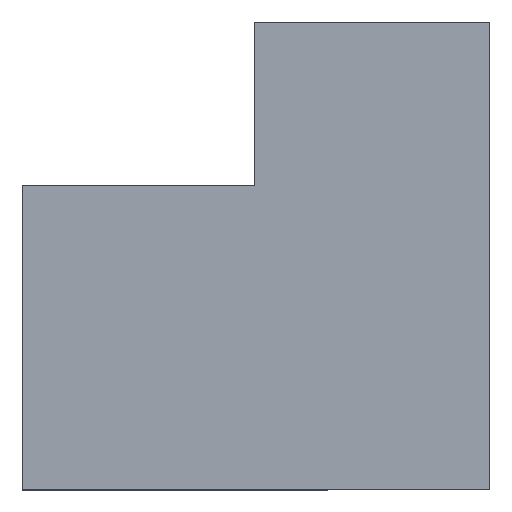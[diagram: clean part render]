
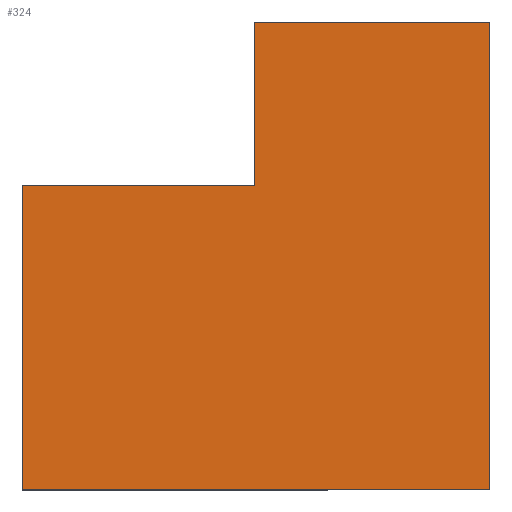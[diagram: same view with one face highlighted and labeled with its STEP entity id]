
A CAD part, top view. The second image highlights one B-rep face of the part: STEP entity #324.
In plain terms, the highlighted planar face has unit normal (0, 0, 1).
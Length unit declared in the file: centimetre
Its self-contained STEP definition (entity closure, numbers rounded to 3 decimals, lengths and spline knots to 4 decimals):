
#28 = VECTOR ( 'NONE', #426, 100. ) ;
#36 = VECTOR ( 'NONE', #319, 100. ) ;
#37 = DIRECTION ( 'NONE',  ( 0., 0., 1. ) ) ;
#44 = VERTEX_POINT ( 'NONE', #54 ) ;
#49 = VERTEX_POINT ( 'NONE', #270 ) ;
#54 = CARTESIAN_POINT ( 'NONE',  ( 1000., 1000., 1000. ) ) ;
#60 = LINE ( 'NONE', #452, #437 ) ;
#74 = EDGE_CURVE ( 'NONE', #152, #438, #60, .T. ) ;
#78 = ORIENTED_EDGE ( 'NONE', *, *, #247, .T. ) ;
#88 = ORIENTED_EDGE ( 'NONE', *, *, #107, .T. ) ;
#97 = FACE_OUTER_BOUND ( 'NONE', #273, .T. ) ;
#99 = LINE ( 'NONE', #100, #36 ) ;
#100 = CARTESIAN_POINT ( 'NONE',  ( 0., 1000., 1000. ) ) ;
#107 = EDGE_CURVE ( 'NONE', #44, #271, #109, .T. ) ;
#109 = LINE ( 'NONE', #144, #361 ) ;
#110 = CARTESIAN_POINT ( 'NONE',  ( 1000., 0., 1000. ) ) ;
#114 = ORIENTED_EDGE ( 'NONE', *, *, #74, .T. ) ;
#124 = ORIENTED_EDGE ( 'NONE', *, *, #253, .T. ) ;
#141 = DIRECTION ( 'NONE',  ( 1., 0., 0. ) ) ;
#144 = CARTESIAN_POINT ( 'NONE',  ( 0., 1000., 1000. ) ) ;
#152 = VERTEX_POINT ( 'NONE', #403 ) ;
#181 = DIRECTION ( 'NONE',  ( 0., 1., 0. ) ) ;
#206 = LINE ( 'NONE', #399, #384 ) ;
#214 = AXIS2_PLACEMENT_3D ( 'NONE', #358, #37, #141 ) ;
#247 = EDGE_CURVE ( 'NONE', #49, #416, #206, .T. ) ;
#253 = EDGE_CURVE ( 'NONE', #438, #49, #99, .T. ) ;
#270 = CARTESIAN_POINT ( 'NONE',  ( 0., 0., 1000. ) ) ;
#271 = VERTEX_POINT ( 'NONE', #392 ) ;
#273 = EDGE_LOOP ( 'NONE', ( #114, #124, #78, #347, #88, #366 ) ) ;
#278 = CARTESIAN_POINT ( 'NONE',  ( 496.7842, 1000., 1000. ) ) ;
#279 = VECTOR ( 'NONE', #181, 100. ) ;
#290 = LINE ( 'NONE', #461, #28 ) ;
#291 = DIRECTION ( 'NONE',  ( 1., 0., 0. ) ) ;
#297 = EDGE_CURVE ( 'NONE', #416, #44, #290, .T. ) ;
#305 = CARTESIAN_POINT ( 'NONE',  ( 0., 650.4817, 1000. ) ) ;
#317 = PLANE ( 'NONE',  #214 ) ;
#319 = DIRECTION ( 'NONE',  ( 0., -1., 0. ) ) ;
#324 = ADVANCED_FACE ( 'NONE', ( #97 ), #317, .T. ) ;
#341 = DIRECTION ( 'NONE',  ( -1., 0., 0. ) ) ;
#347 = ORIENTED_EDGE ( 'NONE', *, *, #297, .T. ) ;
#358 = CARTESIAN_POINT ( 'NONE',  ( 0., 0., 1000. ) ) ;
#361 = VECTOR ( 'NONE', #471, 100. ) ;
#366 = ORIENTED_EDGE ( 'NONE', *, *, #447, .F. ) ;
#384 = VECTOR ( 'NONE', #291, 100. ) ;
#392 = CARTESIAN_POINT ( 'NONE',  ( 496.7842, 1000., 1000. ) ) ;
#399 = CARTESIAN_POINT ( 'NONE',  ( 0., 0., 1000. ) ) ;
#403 = CARTESIAN_POINT ( 'NONE',  ( 496.7842, 650.4817, 1000. ) ) ;
#408 = LINE ( 'NONE', #278, #279 ) ;
#416 = VERTEX_POINT ( 'NONE', #110 ) ;
#426 = DIRECTION ( 'NONE',  ( 0., 1., 0. ) ) ;
#437 = VECTOR ( 'NONE', #341, 100. ) ;
#438 = VERTEX_POINT ( 'NONE', #305 ) ;
#447 = EDGE_CURVE ( 'NONE', #152, #271, #408, .T. ) ;
#452 = CARTESIAN_POINT ( 'NONE',  ( 496.7842, 650.4817, 1000. ) ) ;
#461 = CARTESIAN_POINT ( 'NONE',  ( 1000., 1000., 1000. ) ) ;
#471 = DIRECTION ( 'NONE',  ( -1., 0., 0. ) ) ;
